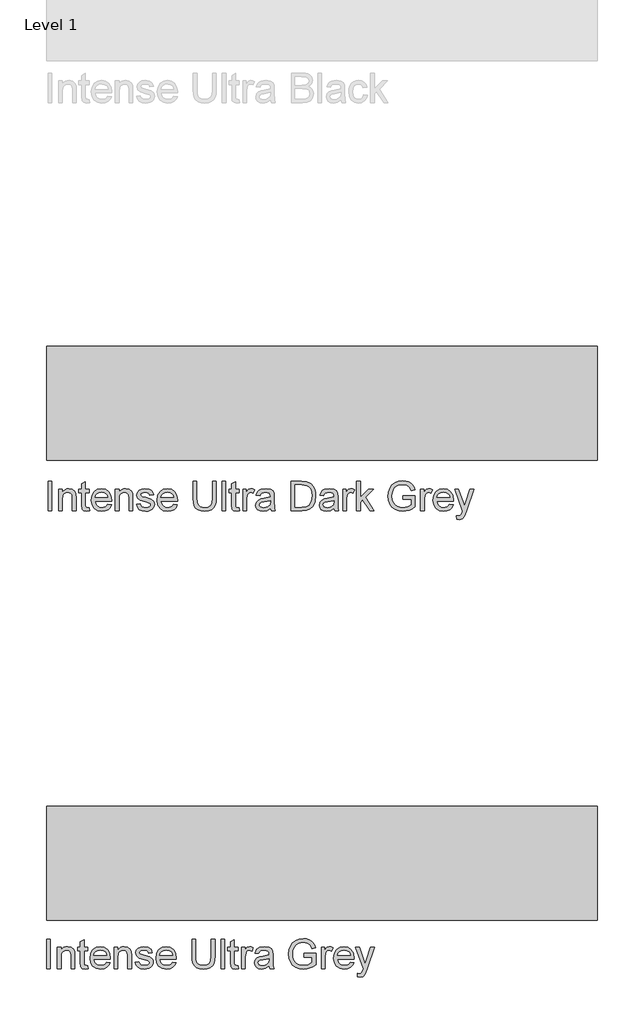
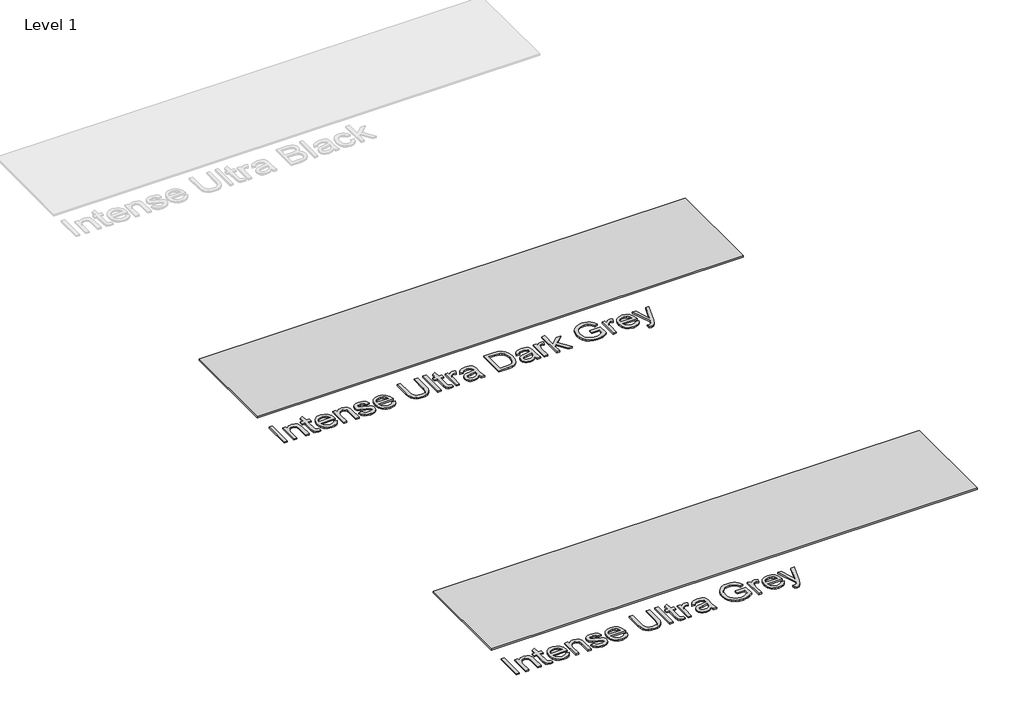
# One storey, part 1 of 2: 4 proxies.
"""IFC4 building model written with IfcOpenShell, lengths in millimetres."""

from ifc_helpers import new_model, si_unit, origin, origin_with_axes, place, context, project, spatial, polyline, outline, extrude, transform, mapped, element, save
from components import generic_models_7f56e2ab

model = new_model("IFC4")

# Units and contexts
model_context = context("Model", 3, world=origin())
ifc_project = project(units=[si_unit("LENGTHUNIT", "METRE", prefix="MILLI")], contexts=[model_context])

# Site, building, storey
site = spatial("IfcSite", under=ifc_project)
building = spatial("IfcBuilding", under=site)
storey = spatial("IfcBuildingStorey", under=building, Name="Level 1", Elevation=0.0)

# Proxies
placement = place(None, origin())
generic_models_shape = generic_models_7f56e2ab(model_context)
element("IfcBuildingElementProxy", 1, Name="Kitchen_Counter-Tops_Indoor-Material_HI-MACS_Intense-Ultra : Intense-Ultra-Dark-Grey_12mm_760x3680mm", ObjectType="Kitchen_Counter-Tops_Indoor-Material_HI-MACS_Intense-Ultra : Intense-Ultra-Dark-Grey_12mm_760x3680mm", at=placement, inside=storey, context=model_context, shape_type="MappedRepresentation", body=[
    mapped(generic_models_shape, transform((-20102.2995655, -146290.0424788, 0.0), x_axis=(1.0, 0.0, 0.0), y_axis=(0.0, 1.0, 0.0), z_axis=(0.0, 0.0, 1.0))),
])
element("IfcBuildingElementProxy", 2, Name="Kitchen_Counter-Tops_Indoor-Material_HI-MACS_Intense-Ultra : Intense-Ultra-Grey_12mm_760x3680mm", ObjectType="Kitchen_Counter-Tops_Indoor-Material_HI-MACS_Intense-Ultra : Intense-Ultra-Grey_12mm_760x3680mm", at=placement, inside=storey, context=model_context, shape_type="MappedRepresentation", body=[
    mapped(generic_models_shape, transform((-20102.2995655, -149359.5662367, 0.0), x_axis=(1.0, 0.0, 0.0), y_axis=(0.0, 1.0, 0.0), z_axis=(0.0, 0.0, 1.0))),
])
element("IfcBuildingElementProxy", 3, Name="600mm Arial", ObjectType="600mm Arial", at=placement, inside=storey, context=model_context, shape_type="SweptSolid", body=[
    extrude(outline(polyline([(-21932.4758787, -147008.5390883), (-21932.4758787, -146811.6160114), (-21907.8604941, -146811.6160114), (-21907.8604941, -147008.5390883), (-21932.4758787, -147008.5390883)])), origin_with_axes(), (0.0, 0.0, 1.0), 10.0),
    extrude(outline(polyline([(-21861.706648, -147008.5390883), (-21861.706648, -146863.9237037), (-21837.0912634, -146863.9237037), (-21837.0912634, -146884.1160114), (-21828.5395807, -146873.9357229), (-21818.269148, -146866.6640883), (-21806.2799653, -146862.3011075), (-21792.5720326, -146860.8467806), (-21769.3268403, -146865.5342806), (-21753.4614557, -146877.8419729), (-21746.081648, -146895.9429344), (-21744.783571, -146919.7410114), (-21744.783571, -147008.5390883), (-21769.3989557, -147008.5390883), (-21769.3989557, -146923.058319), (-21772.2354941, -146901.2794729), (-21782.2595326, -146889.7650498), (-21799.158571, -146885.4621652), (-21813.5756384, -146887.8780306), (-21825.8653018, -146895.1256267), (-21834.284773, -146909.1280306), (-21837.0912634, -146931.808319), (-21837.0912634, -147008.5390883), (-21861.706648, -147008.5390883)])), origin_with_axes(), (0.0, 0.0, 1.0), 10.0),
    extrude(outline(polyline([(-21658.6297249, -146988.0102421), (-21655.5528018, -147009.2602421), (-21673.9662634, -147011.6160114), (-21694.5912634, -147007.5294729), (-21704.8797249, -146996.808319), (-21707.8604941, -146968.8756267), (-21707.8604941, -146888.5390883), (-21726.3220326, -146888.5390883), (-21726.3220326, -146863.9237037), (-21707.8604941, -146863.9237037), (-21707.8604941, -146828.7794729), (-21683.2451095, -146814.308319), (-21683.2451095, -146863.9237037), (-21658.6297249, -146863.9237037), (-21658.6297249, -146888.5390883), (-21683.2451095, -146888.5390883), (-21683.2451095, -146968.1544729), (-21681.9470326, -146980.8467806), (-21677.7403018, -146985.3419729), (-21669.3508787, -146987.0006267), (-21658.6297249, -146988.0102421)])), origin_with_axes(), (0.0, 0.0, 1.0), 10.0),
    extrude(outline(polyline([(-21532.7643403, -146965.4621652), (-21508.6297249, -146968.5390883), (-21517.3256384, -146986.7241844), (-21531.2018403, -147000.3179344), (-21549.9458307, -147008.7914921), (-21573.2451095, -147011.6160114), (-21602.127321, -147006.7422133), (-21624.3508787, -146992.120819), (-21638.5215518, -146968.7013479), (-21643.2451095, -146937.433319), (-21638.4734749, -146905.1136075), (-21624.158571, -146880.9429344), (-21602.2354941, -146865.870819), (-21574.6393403, -146860.8467806), (-21547.9025614, -146865.8587998), (-21526.5383787, -146880.8948575), (-21512.5299653, -146905.0174537), (-21507.8604941, -146937.2890883), (-21508.0047249, -146943.9237037), (-21618.6297249, -146943.9237037), (-21614.3689076, -146962.3491844), (-21604.471071, -146975.8948575), (-21590.1862153, -146984.2241844), (-21572.7643403, -146987.0006267), (-21548.6297249, -146981.856396), (-21539.6633787, -146975.1857229), (-21532.7643403, -146965.4621652)]), holes=[polyline([(-21618.6297249, -146919.308319), (-21532.4758787, -146919.308319), (-21535.8052057, -146906.3035114), (-21542.331648, -146897.0006267), (-21556.6826095, -146888.3467806), (-21574.7354941, -146885.4621652), (-21591.3280422, -146887.7638479), (-21605.0479941, -146894.668896), (-21614.5852537, -146905.4321171), (-21618.6297249, -146919.308319)])]), origin_with_axes(), (0.0, 0.0, 1.0), 10.0),
    extrude(outline(polyline([(-21483.2451095, -147008.5390883), (-21483.2451095, -146863.9237037), (-21458.6297249, -146863.9237037), (-21458.6297249, -146884.1160114), (-21450.0780422, -146873.9357229), (-21439.8076095, -146866.6640883), (-21427.8184268, -146862.3011075), (-21414.1104941, -146860.8467806), (-21390.8653018, -146865.5342806), (-21374.9999172, -146877.8419729), (-21367.6201095, -146895.9429344), (-21366.3220326, -146919.7410114), (-21366.3220326, -147008.5390883), (-21390.9374172, -147008.5390883), (-21390.9374172, -146923.058319), (-21393.7739557, -146901.2794729), (-21403.7979941, -146889.7650498), (-21420.6970326, -146885.4621652), (-21435.1140999, -146887.8780306), (-21447.4037634, -146895.1256267), (-21455.8232345, -146909.1280306), (-21458.6297249, -146931.808319), (-21458.6297249, -147008.5390883), (-21483.2451095, -147008.5390883)])), origin_with_axes(), (0.0, 0.0, 1.0), 10.0),
    extrude(outline(polyline([(-21341.706648, -146965.4621652), (-21317.0912634, -146962.3852421), (-21313.2090518, -146972.9140883), (-21305.6970326, -146980.6544729), (-21294.5071287, -146985.4140883), (-21279.5912634, -146987.0006267), (-21264.8556864, -146985.5462998), (-21254.4951095, -146981.183319), (-21248.3653018, -146974.8612037), (-21246.3220326, -146967.5294729), (-21248.377321, -146961.2554344), (-21254.5431864, -146956.4717806), (-21279.8797249, -146949.4525498), (-21316.9470326, -146937.4092806), (-21333.1249172, -146923.3467806), (-21338.6297249, -146903.4910114), (-21334.206648, -146885.1496652), (-21322.1393403, -146871.1352421), (-21306.4903018, -146863.8515883), (-21285.3124172, -146860.8467806), (-21255.3604941, -146865.6785114), (-21244.158571, -146871.3636075), (-21236.3220326, -146878.7554344), (-21227.8604941, -146900.8467806), (-21252.4758787, -146903.9237037), (-21255.5828499, -146896.1773094), (-21261.7306864, -146890.3419729), (-21283.3893403, -146885.4621652), (-21297.5239557, -146886.6280306), (-21306.9470326, -146890.1256267), (-21312.2475134, -146895.1737037), (-21314.0143403, -146900.9910114), (-21311.081648, -146908.1544729), (-21301.8989557, -146913.5871652), (-21280.6970326, -146918.8275498), (-21244.5672249, -146930.4140883), (-21227.7883787, -146943.5390883), (-21223.2270807, -146953.1905306), (-21221.706648, -146964.933319), (-21223.4915037, -146977.0727421), (-21228.846071, -146988.4910114), (-21237.566023, -146998.292694), (-21249.4470326, -147005.5823575), (-21263.7979941, -147010.1075979), (-21279.9278018, -147011.6160114), (-21304.7475134, -147008.7073575), (-21322.8604941, -146999.981396), (-21334.9518403, -146985.5342806), (-21341.706648, -146965.4621652)])), origin_with_axes(), (0.0, 0.0, 1.0), 10.0),
    extrude(outline(polyline([(-21092.7643403, -146965.4621652), (-21068.6297249, -146968.5390883), (-21077.3256384, -146986.7241844), (-21091.2018403, -147000.3179344), (-21109.9458307, -147008.7914921), (-21133.2451095, -147011.6160114), (-21162.127321, -147006.7422133), (-21184.3508787, -146992.120819), (-21198.5215518, -146968.7013479), (-21203.2451095, -146937.433319), (-21198.4734749, -146905.1136075), (-21184.158571, -146880.9429344), (-21162.2354941, -146865.870819), (-21134.6393403, -146860.8467806), (-21107.9025614, -146865.8587998), (-21086.5383787, -146880.8948575), (-21072.5299653, -146905.0174537), (-21067.8604941, -146937.2890883), (-21068.0047249, -146943.9237037), (-21178.6297249, -146943.9237037), (-21174.3689076, -146962.3491844), (-21164.471071, -146975.8948575), (-21150.1862153, -146984.2241844), (-21132.7643403, -146987.0006267), (-21108.6297249, -146981.856396), (-21099.6633787, -146975.1857229), (-21092.7643403, -146965.4621652)]), holes=[polyline([(-21178.6297249, -146919.308319), (-21092.4758787, -146919.308319), (-21095.8052057, -146906.3035114), (-21102.331648, -146897.0006267), (-21116.6826095, -146888.3467806), (-21134.7354941, -146885.4621652), (-21151.3280422, -146887.7638479), (-21165.0479941, -146894.668896), (-21174.5852537, -146905.4321171), (-21178.6297249, -146919.308319)])]), origin_with_axes(), (0.0, 0.0, 1.0), 10.0),
    extrude(outline(polyline([(-20834.0143403, -146811.6160114), (-20809.3989557, -146811.6160114), (-20809.3989557, -146925.2217806), (-20811.0696287, -146951.8263479), (-20816.081648, -146972.3131267), (-20825.4446287, -146988.1184152), (-20840.1681864, -147000.6785114), (-20860.2883787, -147008.8816364), (-20885.8412634, -147011.6160114), (-20910.8352537, -147009.2362037), (-20930.8172249, -147002.0967806), (-20945.7931864, -146990.4441364), (-20955.769148, -146974.5246652), (-20961.3761191, -146953.1725017), (-20963.2451095, -146925.2217806), (-20963.2451095, -146811.6160114), (-20938.6297249, -146811.6160114), (-20938.6297249, -146924.356396), (-20937.4157826, -146946.4777902), (-20933.7739557, -146961.8804344), (-20927.175398, -146972.5475017), (-20917.0912634, -146980.4621652), (-20903.9422249, -146985.3660114), (-20888.1489557, -146987.0006267), (-20863.112898, -146983.7674537), (-20846.4662634, -146974.0679344), (-20837.127321, -146955.1737037), (-20834.0143403, -146924.356396), (-20834.0143403, -146811.6160114)])), origin_with_axes(), (0.0, 0.0, 1.0), 10.0),
    extrude(outline(polyline([(-20769.3989557, -147008.5390883), (-20769.3989557, -146811.6160114), (-20744.783571, -146811.6160114), (-20744.783571, -147008.5390883), (-20769.3989557, -147008.5390883)])), origin_with_axes(), (0.0, 0.0, 1.0), 10.0),
    extrude(outline(polyline([(-20655.5528018, -146988.0102421), (-20652.4758787, -147009.2602421), (-20670.8893403, -147011.6160114), (-20691.5143403, -147007.5294729), (-20701.8028018, -146996.808319), (-20704.783571, -146968.8756267), (-20704.783571, -146888.5390883), (-20723.2451095, -146888.5390883), (-20723.2451095, -146863.9237037), (-20704.783571, -146863.9237037), (-20704.783571, -146828.7794729), (-20680.1681864, -146814.308319), (-20680.1681864, -146863.9237037), (-20655.5528018, -146863.9237037), (-20655.5528018, -146888.5390883), (-20680.1681864, -146888.5390883), (-20680.1681864, -146968.1544729), (-20678.8701095, -146980.8467806), (-20674.6633787, -146985.3419729), (-20666.2739557, -146987.0006267), (-20655.5528018, -146988.0102421)])), origin_with_axes(), (0.0, 0.0, 1.0), 10.0),
    extrude(outline(polyline([(-20630.9374172, -147008.5390883), (-20630.9374172, -146863.9237037), (-20609.3989557, -146863.9237037), (-20609.3989557, -146885.3179344), (-20594.1104941, -146865.606396), (-20578.7258787, -146860.8467806), (-20566.4662634, -146862.745819), (-20554.0143403, -146868.4429344), (-20562.2354941, -146890.5102421), (-20579.5431864, -146885.4621652), (-20593.4614557, -146890.3179344), (-20602.331648, -146903.7794729), (-20606.3220326, -146932.5294729), (-20606.3220326, -147008.5390883), (-20630.9374172, -147008.5390883)])), origin_with_axes(), (0.0, 0.0, 1.0), 10.0),
    extrude(outline(polyline([(-20446.3220326, -146990.0775498), (-20470.1922249, -147006.7602421), (-20496.5624172, -147011.6160114), (-20517.1333307, -147008.6953383), (-20532.3076095, -146999.933319), (-20541.6645807, -146986.6280306), (-20544.783571, -146970.0775498), (-20540.0720326, -146950.606396), (-20527.6922249, -146936.4717806), (-20510.456648, -146928.3948575), (-20489.158571, -146924.6929344), (-20446.4662634, -146916.231396), (-20446.3220326, -146910.7506267), (-20448.0167441, -146899.7650498), (-20453.1008787, -146892.5775498), (-20464.471071, -146887.2410114), (-20480.3124172, -146885.4621652), (-20505.2162634, -146890.1977421), (-20512.1994364, -146896.7662517), (-20517.0912634, -146907.0006267), (-20541.706648, -146903.9237037), (-20531.0576095, -146879.8852421), (-20521.9830903, -146871.7962998), (-20509.6153018, -146865.7987037), (-20477.1393403, -146860.8467806), (-20447.3076095, -146865.2217806), (-20430.456648, -146876.2073575), (-20422.908571, -146892.9140883), (-20421.706648, -146914.4525498), (-20421.706648, -146945.0775498), (-20420.456648, -146987.8419729), (-20415.5528018, -147008.5390883), (-20440.1681864, -147008.5390883), (-20446.3220326, -146990.0775498)]), holes=[polyline([(-20446.3220326, -146940.8467806), (-20486.033571, -146948.3948575), (-20507.2114557, -146952.3852421), (-20516.8028018, -146958.8756267), (-20520.1681864, -146968.3467806), (-20518.3352537, -146975.6664921), (-20512.8364557, -146981.6640883), (-20503.7919845, -146985.6664921), (-20491.3220326, -146987.0006267), (-20478.1008787, -146985.528271), (-20466.4181864, -146981.1112037), (-20450.3604941, -146966.856396), (-20446.4662634, -146947.8179344), (-20446.3220326, -146940.8467806)])]), origin_with_axes(), (0.0, 0.0, 1.0), 10.0),
    extrude(outline(polyline([(-20307.8604941, -147008.5390883), (-20307.8604941, -146811.6160114), (-20239.9278018, -146811.6160114), (-20204.783571, -146814.4525498), (-20189.0864557, -146819.9212998), (-20175.8412634, -146828.5390883), (-20162.2234749, -146843.5390883), (-20152.5239557, -146862.1929344), (-20146.7186672, -146884.1400498), (-20144.783571, -146909.0198575), (-20150.0239557, -146948.7554344), (-20163.4854941, -146977.433319), (-20181.4662634, -146995.293896), (-20204.9999172, -147005.1737037), (-20236.658571, -147008.5390883), (-20307.8604941, -147008.5390883)]), holes=[polyline([(-20283.2451095, -146983.9237037), (-20239.6874172, -146983.9237037), (-20208.0047249, -146980.3660114), (-20189.7354941, -146970.3179344), (-20181.1838114, -146959.6628864), (-20174.7595326, -146945.870819), (-20169.3989557, -146908.6352421), (-20172.0251576, -146881.808319), (-20179.9037634, -146862.0006267), (-20191.5443884, -146848.3948575), (-20205.456648, -146840.1737037), (-20240.3604941, -146836.231396), (-20283.2451095, -146836.231396), (-20283.2451095, -146983.9237037)])]), origin_with_axes(), (0.0, 0.0, 1.0), 10.0),
    extrude(outline(polyline([(-20021.706648, -146990.0775498), (-20045.5768403, -147006.7602421), (-20071.9470326, -147011.6160114), (-20092.517946, -147008.6953383), (-20107.6922249, -146999.933319), (-20117.049196, -146986.6280306), (-20120.1681864, -146970.0775498), (-20115.456648, -146950.606396), (-20103.0768403, -146936.4717806), (-20085.8412634, -146928.3948575), (-20064.5431864, -146924.6929344), (-20021.8508787, -146916.231396), (-20021.706648, -146910.7506267), (-20023.4013595, -146899.7650498), (-20028.4854941, -146892.5775498), (-20039.8556864, -146887.2410114), (-20055.6970326, -146885.4621652), (-20080.6008787, -146890.1977421), (-20087.5840518, -146896.7662517), (-20092.4758787, -146907.0006267), (-20117.0912634, -146903.9237037), (-20106.4422249, -146879.8852421), (-20097.3677057, -146871.7962998), (-20084.9999172, -146865.7987037), (-20052.5239557, -146860.8467806), (-20022.6922249, -146865.2217806), (-20005.8412634, -146876.2073575), (-19998.2931864, -146892.9140883), (-19997.0912634, -146914.4525498), (-19997.0912634, -146945.0775498), (-19995.8412634, -146987.8419729), (-19990.9374172, -147008.5390883), (-20015.5528018, -147008.5390883), (-20021.706648, -146990.0775498)]), holes=[polyline([(-20021.706648, -146940.8467806), (-20061.4181864, -146948.3948575), (-20082.596071, -146952.3852421), (-20092.1874172, -146958.8756267), (-20095.5528018, -146968.3467806), (-20093.7198691, -146975.6664921), (-20088.221071, -146981.6640883), (-20079.1765999, -146985.6664921), (-20066.706648, -146987.0006267), (-20053.4854941, -146985.528271), (-20041.8028018, -146981.1112037), (-20025.7451095, -146966.856396), (-20021.8508787, -146947.8179344), (-20021.706648, -146940.8467806)])]), origin_with_axes(), (0.0, 0.0, 1.0), 10.0),
    extrude(outline(polyline([(-19963.2451095, -147008.5390883), (-19963.2451095, -146863.9237037), (-19941.706648, -146863.9237037), (-19941.706648, -146885.3179344), (-19926.4181864, -146865.606396), (-19911.033571, -146860.8467806), (-19898.7739557, -146862.745819), (-19886.3220326, -146868.4429344), (-19894.5431864, -146890.5102421), (-19911.8508787, -146885.4621652), (-19925.769148, -146890.3179344), (-19934.6393403, -146903.7794729), (-19938.6297249, -146932.5294729), (-19938.6297249, -147008.5390883), (-19963.2451095, -147008.5390883)])), origin_with_axes(), (0.0, 0.0, 1.0), 10.0),
    extrude(outline(polyline([(-19870.9374172, -147008.5390883), (-19870.9374172, -146811.6160114), (-19846.3220326, -146811.6160114), (-19846.3220326, -146917.433319), (-19791.1297249, -146863.9237037), (-19757.0912634, -146863.9237037), (-19812.956648, -146918.106396), (-19754.0143403, -147008.5390883), (-19782.7643403, -147008.5390883), (-19830.6008787, -146935.2217806), (-19846.3220326, -146950.4621652), (-19846.3220326, -147008.5390883), (-19870.9374172, -147008.5390883)])), origin_with_axes(), (0.0, 0.0, 1.0), 10.0),
    extrude(outline(polyline([(-19560.1681864, -146931.6160114), (-19560.1681864, -146907.0006267), (-19480.1681864, -146907.0006267), (-19480.1681864, -146980.606396), (-19499.6092922, -146994.1280306), (-19519.6633787, -147003.8275498), (-19540.2823691, -147009.668896), (-19561.4181864, -147011.6160114), (-19589.0323691, -147008.5210594), (-19613.9903018, -146999.2362037), (-19634.7234749, -146984.0859633), (-19649.6633787, -146963.3948575), (-19658.6958307, -146938.575146), (-19661.706648, -146911.0390883), (-19658.7078499, -146883.3047133), (-19649.7114557, -146857.5054344), (-19635.0900614, -146835.8648094), (-19615.2162634, -146820.606396), (-19591.0095326, -146811.5559152), (-19563.3893403, -146808.5390883), (-19543.112898, -146810.2878864), (-19524.8797249, -146815.5342806), (-19509.5251576, -146823.8996652), (-19497.8845326, -146835.0054344), (-19489.2727537, -146849.386444), (-19483.0047249, -146867.5775498), (-19505.6970326, -146873.9717806), (-19516.9229941, -146851.2073575), (-19536.1056864, -146838.0823575), (-19563.7739557, -146833.1544729), (-19595.2883787, -146838.4669729), (-19616.7306864, -146852.4092806), (-19629.3989557, -146871.3756267), (-19635.1681864, -146889.9573575), (-19637.0912634, -146910.0294729), (-19634.7775614, -146933.5691364), (-19627.8364557, -146952.9381267), (-19616.4782826, -146967.9982229), (-19600.9133787, -146978.6112037), (-19582.6982345, -146984.903271), (-19563.3893403, -146987.0006267), (-19546.3400614, -146985.4200979), (-19529.7114557, -146980.6785114), (-19504.783571, -146967.1929344), (-19504.783571, -146931.6160114), (-19560.1681864, -146931.6160114)])), origin_with_axes(), (0.0, 0.0, 1.0), 10.0),
    extrude(outline(polyline([(-19443.2451095, -147008.5390883), (-19443.2451095, -146863.9237037), (-19421.706648, -146863.9237037), (-19421.706648, -146885.3179344), (-19406.4181864, -146865.606396), (-19391.033571, -146860.8467806), (-19378.7739557, -146862.745819), (-19366.3220326, -146868.4429344), (-19374.5431864, -146890.5102421), (-19391.8508787, -146885.4621652), (-19405.769148, -146890.3179344), (-19414.6393403, -146903.7794729), (-19418.6297249, -146932.5294729), (-19418.6297249, -147008.5390883), (-19443.2451095, -147008.5390883)])), origin_with_axes(), (0.0, 0.0, 1.0), 10.0),
    extrude(outline(polyline([(-19249.6874172, -146965.4621652), (-19225.5528018, -146968.5390883), (-19234.2487153, -146986.7241844), (-19248.1249172, -147000.3179344), (-19266.8689076, -147008.7914921), (-19290.1681864, -147011.6160114), (-19319.050398, -147006.7422133), (-19341.2739557, -146992.120819), (-19355.4446287, -146968.7013479), (-19360.1681864, -146937.433319), (-19355.3965518, -146905.1136075), (-19341.081648, -146880.9429344), (-19319.158571, -146865.870819), (-19291.5624172, -146860.8467806), (-19264.8256384, -146865.8587998), (-19243.4614557, -146880.8948575), (-19229.4530422, -146905.0174537), (-19224.783571, -146937.2890883), (-19224.9278018, -146943.9237037), (-19335.5528018, -146943.9237037), (-19331.2919845, -146962.3491844), (-19321.394148, -146975.8948575), (-19307.1092922, -146984.2241844), (-19289.6874172, -146987.0006267), (-19265.5528018, -146981.856396), (-19256.5864557, -146975.1857229), (-19249.6874172, -146965.4621652)]), holes=[polyline([(-19335.5528018, -146919.308319), (-19249.3989557, -146919.308319), (-19252.7282826, -146906.3035114), (-19259.2547249, -146897.0006267), (-19273.6056864, -146888.3467806), (-19291.658571, -146885.4621652), (-19308.2511191, -146887.7638479), (-19321.971071, -146894.668896), (-19331.5083307, -146905.4321171), (-19335.5528018, -146919.308319)])]), origin_with_axes(), (0.0, 0.0, 1.0), 10.0),
    extrude(outline(polyline([(-19200.1681864, -147063.9237037), (-19203.2451095, -147040.2217806), (-19190.7451095, -147042.3852421), (-19179.0624172, -147039.668896), (-19171.8989557, -147032.0967806), (-19165.1681864, -147013.9717806), (-19163.2451095, -147008.0102421), (-19215.5528018, -146863.9237037), (-19189.5912634, -146863.9237037), (-19161.8508787, -146944.2121652), (-19152.1874172, -146976.3275498), (-19142.5239557, -146947.9621652), (-19114.0143403, -146863.9237037), (-19088.2451095, -146863.9237037), (-19138.581648, -147012.0006267), (-19151.658571, -147044.1160114), (-19165.9374172, -147061.4717806), (-19185.1201095, -147067.0006267), (-19200.1681864, -147063.9237037)])), origin_with_axes(), (0.0, 0.0, 1.0), 10.0),
])
element("IfcBuildingElementProxy", 4, Name="600mm Arial", ObjectType="600mm Arial", at=placement, inside=storey, context=model_context, shape_type="SweptSolid", body=[
    extrude(outline(polyline([(-21940.7588648, -150064.4754206), (-21940.7588648, -149867.5523436), (-21916.1434801, -149867.5523436), (-21916.1434801, -150064.4754206), (-21940.7588648, -150064.4754206)])), origin_with_axes(), (0.0, 0.0, 1.0), 10.0),
    extrude(outline(polyline([(-21869.989634, -150064.4754206), (-21869.989634, -149919.860036), (-21845.3742494, -149919.860036), (-21845.3742494, -149940.0523436), (-21836.8225667, -149929.8720552), (-21826.552134, -149922.6004206), (-21814.5629513, -149918.2374398), (-21800.8550186, -149916.7831129), (-21777.6098263, -149921.4706129), (-21761.7444417, -149933.7783052), (-21754.364634, -149951.8792667), (-21753.0665571, -149975.6773436), (-21753.0665571, -150064.4754206), (-21777.6819417, -150064.4754206), (-21777.6819417, -149978.9946513), (-21780.5184801, -149957.2158052), (-21790.5425186, -149945.7013821), (-21807.4415571, -149941.3984975), (-21821.8586244, -149943.8143629), (-21834.1482878, -149951.061959), (-21842.567759, -149965.0643629), (-21845.3742494, -149987.7446513), (-21845.3742494, -150064.4754206), (-21869.989634, -150064.4754206)])), origin_with_axes(), (0.0, 0.0, 1.0), 10.0),
    extrude(outline(polyline([(-21666.9127109, -150043.9465744), (-21663.8357878, -150065.1965744), (-21682.2492494, -150067.5523436), (-21702.8742494, -150063.4658052), (-21713.1627109, -150052.7446513), (-21716.1434801, -150024.811959), (-21716.1434801, -149944.4754206), (-21734.6050186, -149944.4754206), (-21734.6050186, -149919.860036), (-21716.1434801, -149919.860036), (-21716.1434801, -149884.7158052), (-21691.5280955, -149870.2446513), (-21691.5280955, -149919.860036), (-21666.9127109, -149919.860036), (-21666.9127109, -149944.4754206), (-21691.5280955, -149944.4754206), (-21691.5280955, -150024.0908052), (-21690.2300186, -150036.7831129), (-21686.0232878, -150041.2783052), (-21677.6338648, -150042.936959), (-21666.9127109, -150043.9465744)])), origin_with_axes(), (0.0, 0.0, 1.0), 10.0),
    extrude(outline(polyline([(-21541.0473263, -150021.3984975), (-21516.9127109, -150024.4754206), (-21525.6086244, -150042.6605167), (-21539.4848263, -150056.2542667), (-21558.2288167, -150064.7278244), (-21581.5280955, -150067.5523436), (-21610.4103071, -150062.6785456), (-21632.6338648, -150048.0571513), (-21646.8045378, -150024.6376802), (-21651.5280955, -149993.3696513), (-21646.7564609, -149961.0499398), (-21632.4415571, -149936.8792667), (-21610.5184801, -149921.8071513), (-21582.9223263, -149916.7831129), (-21556.1855474, -149921.7951321), (-21534.8213648, -149936.8311898), (-21520.8129513, -149960.953786), (-21516.1434801, -149993.2254206), (-21516.2877109, -149999.860036), (-21626.9127109, -149999.860036), (-21622.6518936, -150018.2855167), (-21612.7540571, -150031.8311898), (-21598.4692013, -150040.1605167), (-21581.0473263, -150042.936959), (-21556.9127109, -150037.7927283), (-21547.9463648, -150031.1220552), (-21541.0473263, -150021.3984975)]), holes=[polyline([(-21626.9127109, -149975.2446513), (-21540.7588648, -149975.2446513), (-21544.0881917, -149962.2398436), (-21550.614634, -149952.936959), (-21564.9655955, -149944.2831129), (-21583.0184801, -149941.3984975), (-21599.6110282, -149943.7001802), (-21613.3309801, -149950.6052283), (-21622.8682398, -149961.3684494), (-21626.9127109, -149975.2446513)])]), origin_with_axes(), (0.0, 0.0, 1.0), 10.0),
    extrude(outline(polyline([(-21491.5280955, -150064.4754206), (-21491.5280955, -149919.860036), (-21466.9127109, -149919.860036), (-21466.9127109, -149940.0523436), (-21458.3610282, -149929.8720552), (-21448.0905955, -149922.6004206), (-21436.1014128, -149918.2374398), (-21422.3934801, -149916.7831129), (-21399.1482878, -149921.4706129), (-21383.2829032, -149933.7783052), (-21375.9030955, -149951.8792667), (-21374.6050186, -149975.6773436), (-21374.6050186, -150064.4754206), (-21399.2204032, -150064.4754206), (-21399.2204032, -149978.9946513), (-21402.0569417, -149957.2158052), (-21412.0809801, -149945.7013821), (-21428.9800186, -149941.3984975), (-21443.3970859, -149943.8143629), (-21455.6867494, -149951.061959), (-21464.1062205, -149965.0643629), (-21466.9127109, -149987.7446513), (-21466.9127109, -150064.4754206), (-21491.5280955, -150064.4754206)])), origin_with_axes(), (0.0, 0.0, 1.0), 10.0),
    extrude(outline(polyline([(-21349.989634, -150021.3984975), (-21325.3742494, -150018.3215744), (-21321.4920378, -150028.8504206), (-21313.9800186, -150036.5908052), (-21302.7901148, -150041.3504206), (-21287.8742494, -150042.936959), (-21273.1386724, -150041.4826321), (-21262.7780955, -150037.1196513), (-21256.6482878, -150030.797536), (-21254.6050186, -150023.4658052), (-21256.6603071, -150017.1917667), (-21262.8261724, -150012.4081129), (-21288.1627109, -150005.3888821), (-21325.2300186, -149993.3456129), (-21341.4079032, -149979.2831129), (-21346.9127109, -149959.4273436), (-21342.489634, -149941.0859975), (-21330.4223263, -149927.0715744), (-21314.7732878, -149919.7879206), (-21293.5954032, -149916.7831129), (-21263.6434801, -149921.6148436), (-21252.4415571, -149927.2999398), (-21244.6050186, -149934.6917667), (-21236.1434801, -149956.7831129), (-21260.7588648, -149959.860036), (-21263.8658359, -149952.1136417), (-21270.0136724, -149946.2783052), (-21291.6723263, -149941.3984975), (-21305.8069417, -149942.5643629), (-21315.2300186, -149946.061959), (-21320.5304994, -149951.110036), (-21322.2973263, -149956.9273436), (-21319.364634, -149964.0908052), (-21310.1819417, -149969.5234975), (-21288.9800186, -149974.7638821), (-21252.8502109, -149986.3504206), (-21236.0713648, -149999.4754206), (-21231.5100667, -150009.1268629), (-21229.989634, -150020.8696513), (-21231.7744898, -150033.0090744), (-21237.1290571, -150044.4273436), (-21245.849009, -150054.2290263), (-21257.7300186, -150061.5186898), (-21272.0809801, -150066.0439302), (-21288.2107878, -150067.5523436), (-21313.0304994, -150064.6436898), (-21331.1434801, -150055.9177283), (-21343.2348263, -150041.4706129), (-21349.989634, -150021.3984975)])), origin_with_axes(), (0.0, 0.0, 1.0), 10.0),
    extrude(outline(polyline([(-21101.0473263, -150021.3984975), (-21076.9127109, -150024.4754206), (-21085.6086244, -150042.6605167), (-21099.4848263, -150056.2542667), (-21118.2288167, -150064.7278244), (-21141.5280955, -150067.5523436), (-21170.4103071, -150062.6785456), (-21192.6338648, -150048.0571513), (-21206.8045378, -150024.6376802), (-21211.5280955, -149993.3696513), (-21206.7564609, -149961.0499398), (-21192.4415571, -149936.8792667), (-21170.5184801, -149921.8071513), (-21142.9223263, -149916.7831129), (-21116.1855474, -149921.7951321), (-21094.8213648, -149936.8311898), (-21080.8129513, -149960.953786), (-21076.1434801, -149993.2254206), (-21076.2877109, -149999.860036), (-21186.9127109, -149999.860036), (-21182.6518936, -150018.2855167), (-21172.7540571, -150031.8311898), (-21158.4692013, -150040.1605167), (-21141.0473263, -150042.936959), (-21116.9127109, -150037.7927283), (-21107.9463648, -150031.1220552), (-21101.0473263, -150021.3984975)]), holes=[polyline([(-21186.9127109, -149975.2446513), (-21100.7588648, -149975.2446513), (-21104.0881917, -149962.2398436), (-21110.614634, -149952.936959), (-21124.9655955, -149944.2831129), (-21143.0184801, -149941.3984975), (-21159.6110282, -149943.7001802), (-21173.3309801, -149950.6052283), (-21182.8682398, -149961.3684494), (-21186.9127109, -149975.2446513)])]), origin_with_axes(), (0.0, 0.0, 1.0), 10.0),
    extrude(outline(polyline([(-20842.2973263, -149867.5523436), (-20817.6819417, -149867.5523436), (-20817.6819417, -149981.1581129), (-20819.3526148, -150007.7626802), (-20824.364634, -150028.249459), (-20833.7276148, -150044.0547475), (-20848.4511724, -150056.6148436), (-20868.5713648, -150064.8179686), (-20894.1242494, -150067.5523436), (-20919.1182398, -150065.172536), (-20939.1002109, -150058.0331129), (-20954.0761724, -150046.3804686), (-20964.052134, -150030.4609975), (-20969.6591051, -150009.108834), (-20971.5280955, -149981.1581129), (-20971.5280955, -149867.5523436), (-20946.9127109, -149867.5523436), (-20946.9127109, -149980.2927283), (-20945.6987686, -150002.4141225), (-20942.0569417, -150017.8167667), (-20935.458384, -150028.483834), (-20925.3742494, -150036.3984975), (-20912.2252109, -150041.3023436), (-20896.4319417, -150042.936959), (-20871.395884, -150039.703786), (-20854.7492494, -150030.0042667), (-20845.4103071, -150011.110036), (-20842.2973263, -149980.2927283), (-20842.2973263, -149867.5523436)])), origin_with_axes(), (0.0, 0.0, 1.0), 10.0),
    extrude(outline(polyline([(-20777.6819417, -150064.4754206), (-20777.6819417, -149867.5523436), (-20753.0665571, -149867.5523436), (-20753.0665571, -150064.4754206), (-20777.6819417, -150064.4754206)])), origin_with_axes(), (0.0, 0.0, 1.0), 10.0),
    extrude(outline(polyline([(-20663.8357878, -150043.9465744), (-20660.7588648, -150065.1965744), (-20679.1723263, -150067.5523436), (-20699.7973263, -150063.4658052), (-20710.0857878, -150052.7446513), (-20713.0665571, -150024.811959), (-20713.0665571, -149944.4754206), (-20731.5280955, -149944.4754206), (-20731.5280955, -149919.860036), (-20713.0665571, -149919.860036), (-20713.0665571, -149884.7158052), (-20688.4511724, -149870.2446513), (-20688.4511724, -149919.860036), (-20663.8357878, -149919.860036), (-20663.8357878, -149944.4754206), (-20688.4511724, -149944.4754206), (-20688.4511724, -150024.0908052), (-20687.1530955, -150036.7831129), (-20682.9463648, -150041.2783052), (-20674.5569417, -150042.936959), (-20663.8357878, -150043.9465744)])), origin_with_axes(), (0.0, 0.0, 1.0), 10.0),
    extrude(outline(polyline([(-20639.2204032, -150064.4754206), (-20639.2204032, -149919.860036), (-20617.6819417, -149919.860036), (-20617.6819417, -149941.2542667), (-20602.3934801, -149921.5427283), (-20587.0088648, -149916.7831129), (-20574.7492494, -149918.6821513), (-20562.2973263, -149924.3792667), (-20570.5184801, -149946.4465744), (-20587.8261724, -149941.3984975), (-20601.7444417, -149946.2542667), (-20610.614634, -149959.7158052), (-20614.6050186, -149988.4658052), (-20614.6050186, -150064.4754206), (-20639.2204032, -150064.4754206)])), origin_with_axes(), (0.0, 0.0, 1.0), 10.0),
    extrude(outline(polyline([(-20454.6050186, -150046.0138821), (-20478.4752109, -150062.6965744), (-20504.8454032, -150067.5523436), (-20525.4163167, -150064.6316706), (-20540.5905955, -150055.8696513), (-20549.9475667, -150042.5643629), (-20553.0665571, -150026.0138821), (-20548.3550186, -150006.5427283), (-20535.9752109, -149992.4081129), (-20518.739634, -149984.3311898), (-20497.4415571, -149980.6292667), (-20454.7492494, -149972.1677283), (-20454.6050186, -149966.686959), (-20456.2997301, -149955.7013821), (-20461.3838648, -149948.5138821), (-20472.7540571, -149943.1773436), (-20488.5954032, -149941.3984975), (-20513.4992494, -149946.1340744), (-20520.4824224, -149952.702584), (-20525.3742494, -149962.936959), (-20549.989634, -149959.860036), (-20539.3405955, -149935.8215744), (-20530.2660763, -149927.7326321), (-20517.8982878, -149921.735036), (-20485.4223263, -149916.7831129), (-20455.5905955, -149921.1581129), (-20438.739634, -149932.1436898), (-20431.1915571, -149948.8504206), (-20429.989634, -149970.3888821), (-20429.989634, -150001.0138821), (-20428.739634, -150043.7783052), (-20423.8357878, -150064.4754206), (-20448.4511724, -150064.4754206), (-20454.6050186, -150046.0138821)]), holes=[polyline([(-20454.6050186, -149996.7831129), (-20494.3165571, -150004.3311898), (-20515.4944417, -150008.3215744), (-20525.0857878, -150014.811959), (-20528.4511724, -150024.2831129), (-20526.6182398, -150031.6028244), (-20521.1194417, -150037.6004206), (-20512.0749705, -150041.6028244), (-20499.6050186, -150042.936959), (-20486.3838648, -150041.4646033), (-20474.7011724, -150037.047536), (-20458.6434801, -150022.7927283), (-20454.7492494, -150003.7542667), (-20454.6050186, -149996.7831129)])]), origin_with_axes(), (0.0, 0.0, 1.0), 10.0),
    extrude(outline(polyline([(-20223.8357878, -149987.5523436), (-20223.8357878, -149962.936959), (-20143.8357878, -149962.936959), (-20143.8357878, -150036.5427283), (-20163.2768936, -150050.0643629), (-20183.3309801, -150059.7638821), (-20203.9499705, -150065.6052283), (-20225.0857878, -150067.5523436), (-20252.6999705, -150064.4573917), (-20277.6579032, -150055.172536), (-20298.3910763, -150040.0222956), (-20313.3309801, -150019.3311898), (-20322.3634321, -149994.5114783), (-20325.3742494, -149966.9754206), (-20322.3754513, -149939.2410456), (-20313.3790571, -149913.4417667), (-20298.7576628, -149891.8011417), (-20278.8838648, -149876.5427283), (-20254.677134, -149867.4922475), (-20227.0569417, -149864.4754206), (-20206.7804994, -149866.2242186), (-20188.5473263, -149871.4706129), (-20173.192759, -149879.8359975), (-20161.552134, -149890.9417667), (-20152.9403551, -149905.3227763), (-20146.6723263, -149923.5138821), (-20169.364634, -149929.9081129), (-20180.5905955, -149907.1436898), (-20199.7732878, -149894.0186898), (-20227.4415571, -149889.0908052), (-20258.9559801, -149894.4033052), (-20280.3982878, -149908.3456129), (-20293.0665571, -149927.311959), (-20298.8357878, -149945.8936898), (-20300.7588648, -149965.9658052), (-20298.4451628, -149989.5054686), (-20291.5040571, -150008.874459), (-20280.145884, -150023.9345552), (-20264.5809801, -150034.547536), (-20246.3658359, -150040.8396033), (-20227.0569417, -150042.936959), (-20210.0076628, -150041.3564302), (-20193.3790571, -150036.6148436), (-20168.4511724, -150023.1292667), (-20168.4511724, -149987.5523436), (-20223.8357878, -149987.5523436)])), origin_with_axes(), (0.0, 0.0, 1.0), 10.0),
    extrude(outline(polyline([(-20106.9127109, -150064.4754206), (-20106.9127109, -149919.860036), (-20085.3742494, -149919.860036), (-20085.3742494, -149941.2542667), (-20070.0857878, -149921.5427283), (-20054.7011724, -149916.7831129), (-20042.4415571, -149918.6821513), (-20029.989634, -149924.3792667), (-20038.2107878, -149946.4465744), (-20055.5184801, -149941.3984975), (-20069.4367494, -149946.2542667), (-20078.3069417, -149959.7158052), (-20082.2973263, -149988.4658052), (-20082.2973263, -150064.4754206), (-20106.9127109, -150064.4754206)])), origin_with_axes(), (0.0, 0.0, 1.0), 10.0),
    extrude(outline(polyline([(-19913.3550186, -150021.3984975), (-19889.2204032, -150024.4754206), (-19897.9163167, -150042.6605167), (-19911.7925186, -150056.2542667), (-19930.536509, -150064.7278244), (-19953.8357878, -150067.5523436), (-19982.7179994, -150062.6785456), (-20004.9415571, -150048.0571513), (-20019.1122301, -150024.6376802), (-20023.8357878, -149993.3696513), (-20019.0641532, -149961.0499398), (-20004.7492494, -149936.8792667), (-19982.8261724, -149921.8071513), (-19955.2300186, -149916.7831129), (-19928.4932398, -149921.7951321), (-19907.1290571, -149936.8311898), (-19893.1206436, -149960.953786), (-19888.4511724, -149993.2254206), (-19888.5954032, -149999.860036), (-19999.2204032, -149999.860036), (-19994.9595859, -150018.2855167), (-19985.0617494, -150031.8311898), (-19970.7768936, -150040.1605167), (-19953.3550186, -150042.936959), (-19929.2204032, -150037.7927283), (-19920.2540571, -150031.1220552), (-19913.3550186, -150021.3984975)]), holes=[polyline([(-19999.2204032, -149975.2446513), (-19913.0665571, -149975.2446513), (-19916.395884, -149962.2398436), (-19922.9223263, -149952.936959), (-19937.2732878, -149944.2831129), (-19955.3261724, -149941.3984975), (-19971.9187205, -149943.7001802), (-19985.6386724, -149950.6052283), (-19995.1759321, -149961.3684494), (-19999.2204032, -149975.2446513)])]), origin_with_axes(), (0.0, 0.0, 1.0), 10.0),
    extrude(outline(polyline([(-19863.8357878, -150119.860036), (-19866.9127109, -150096.1581129), (-19854.4127109, -150098.3215744), (-19842.7300186, -150095.6052283), (-19835.5665571, -150088.0331129), (-19828.8357878, -150069.9081129), (-19826.9127109, -150063.9465744), (-19879.2204032, -149919.860036), (-19853.2588648, -149919.860036), (-19825.5184801, -150000.1484975), (-19815.8550186, -150032.2638821), (-19806.1915571, -150003.8984975), (-19777.6819417, -149919.860036), (-19751.9127109, -149919.860036), (-19802.2492494, -150067.936959), (-19815.3261724, -150100.0523436), (-19829.6050186, -150117.4081129), (-19848.7877109, -150122.936959), (-19863.8357878, -150119.860036)])), origin_with_axes(), (0.0, 0.0, 1.0), 10.0),
])

save(model, "model.ifc")
